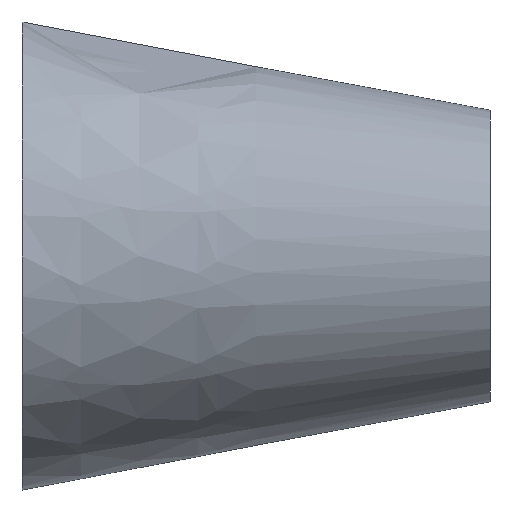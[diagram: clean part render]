
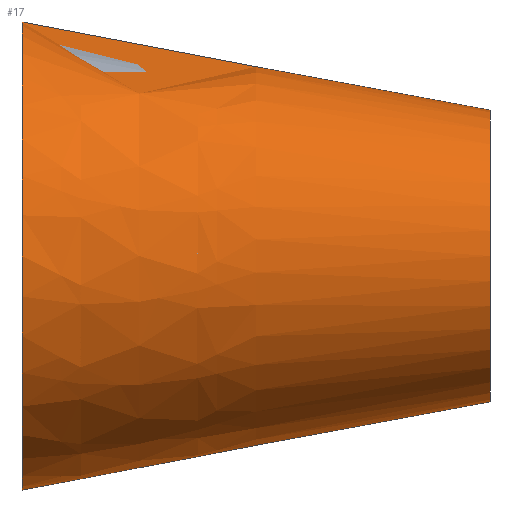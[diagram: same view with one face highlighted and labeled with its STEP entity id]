
A CAD part, front view. The second image highlights one B-rep face of the part: STEP entity #17.
In plain terms, the highlighted free-form (B-spline) face has degree [14, 1] with [28, 2] control points.
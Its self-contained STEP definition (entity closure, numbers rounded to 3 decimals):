
#17 = ADVANCED_FACE('',(#18),#31,.T.);
#18 = FACE_BOUND('',#19,.T.);
#19 = EDGE_LOOP('',(#20,#106,#128,#155));
#20 = ORIENTED_EDGE('',*,*,#21,.T.);
#21 = EDGE_CURVE('',#22,#22,#24,.T.);
#22 = VERTEX_POINT('',#23);
#23 = CARTESIAN_POINT('',(0.,42.5,0.));
#24 = SURFACE_CURVE('',#25,(#30,#94),.PCURVE_S1.);
#25 = CIRCLE('',#26,42.5);
#26 = AXIS2_PLACEMENT_3D('',#27,#28,#29);
#27 = CARTESIAN_POINT('',(0.,0.,0.));
#28 = DIRECTION('',(1.,0.,0.));
#29 = DIRECTION('',(0.,1.,0.));
#30 = PCURVE('',#31,#88);
#31 = B_SPLINE_SURFACE_WITH_KNOTS('',14,1,(
    (#32,#33)
    ,(#34,#35)
    ,(#36,#37)
    ,(#38,#39)
    ,(#40,#41)
    ,(#42,#43)
    ,(#44,#45)
    ,(#46,#47)
    ,(#48,#49)
    ,(#50,#51)
    ,(#52,#53)
    ,(#54,#55)
    ,(#56,#57)
    ,(#58,#59)
    ,(#60,#61)
    ,(#62,#63)
    ,(#64,#65)
    ,(#66,#67)
    ,(#68,#69)
    ,(#70,#71)
    ,(#72,#73)
    ,(#74,#75)
    ,(#76,#77)
    ,(#78,#79)
    ,(#80,#81)
    ,(#82,#83)
    ,(#84,#85)
    ,(#86,#87
    )),.UNSPECIFIED.,.T.,.F.,.F.,(15,13,15),(2,2),(0.,3.142,
    6.283),(0.,1.),.UNSPECIFIED.);
#32 = CARTESIAN_POINT('',(0.,42.5,0.));
#33 = CARTESIAN_POINT('',(85.,10.5,0.));
#34 = CARTESIAN_POINT('',(0.,42.5,9.537));
#35 = CARTESIAN_POINT('',(85.,10.5,5.947));
#36 = CARTESIAN_POINT('',(0.,40.195,19.074));
#37 = CARTESIAN_POINT('',(85.,9.063,11.893
    ));
#38 = CARTESIAN_POINT('',(0.,35.586,28.008));
#39 = CARTESIAN_POINT('',(85.,6.189,17.464
    ));
#40 = CARTESIAN_POINT('',(0.,28.844,35.734));
#41 = CARTESIAN_POINT('',(85.,1.985,22.281)
  );
#42 = CARTESIAN_POINT('',(0.,20.314,41.705));
#43 = CARTESIAN_POINT('',(85.,-3.333,26.004
    ));
#44 = CARTESIAN_POINT('',(0.,10.495,45.479));
#45 = CARTESIAN_POINT('',(85.,-9.456,28.358
    ));
#46 = CARTESIAN_POINT('',(0.,0.,46.77));
#47 = CARTESIAN_POINT('',(85.,-16.,
    29.163));
#48 = CARTESIAN_POINT('',(0.,-10.495,45.479));
#49 = CARTESIAN_POINT('',(85.,-22.544,28.358));
#50 = CARTESIAN_POINT('',(0.,-20.314,41.705));
#51 = CARTESIAN_POINT('',(85.,-28.667,26.004));
#52 = CARTESIAN_POINT('',(0.,-28.844,35.734));
#53 = CARTESIAN_POINT('',(85.,-33.985,22.281));
#54 = CARTESIAN_POINT('',(0.,-35.586,28.008));
#55 = CARTESIAN_POINT('',(85.,-38.189,17.464));
#56 = CARTESIAN_POINT('',(0.,-40.195,19.074));
#57 = CARTESIAN_POINT('',(85.,-41.063,11.893));
#58 = CARTESIAN_POINT('',(0.,-42.5,9.537));
#59 = CARTESIAN_POINT('',(85.,-42.5,5.947));
#60 = CARTESIAN_POINT('',(0.,-42.5,-9.537));
#61 = CARTESIAN_POINT('',(85.,-42.5,-5.947));
#62 = CARTESIAN_POINT('',(0.,-40.195,-19.074));
#63 = CARTESIAN_POINT('',(85.,-41.063,-11.893));
#64 = CARTESIAN_POINT('',(0.,-35.586,-28.008));
#65 = CARTESIAN_POINT('',(85.,-38.189,-17.464));
#66 = CARTESIAN_POINT('',(0.,-28.844,-35.734));
#67 = CARTESIAN_POINT('',(85.,-33.985,-22.281));
#68 = CARTESIAN_POINT('',(0.,-20.314,-41.705));
#69 = CARTESIAN_POINT('',(85.,-28.667,-26.004));
#70 = CARTESIAN_POINT('',(0.,-10.495,-45.479));
#71 = CARTESIAN_POINT('',(85.,-22.544,-28.358));
#72 = CARTESIAN_POINT('',(0.,0.,-46.77));
#73 = CARTESIAN_POINT('',(85.,-16.,-29.163));
#74 = CARTESIAN_POINT('',(0.,10.495,-45.479));
#75 = CARTESIAN_POINT('',(85.,-9.456,-28.358
    ));
#76 = CARTESIAN_POINT('',(0.,20.314,-41.705));
#77 = CARTESIAN_POINT('',(85.,-3.333,-26.004
    ));
#78 = CARTESIAN_POINT('',(0.,28.844,-35.734));
#79 = CARTESIAN_POINT('',(85.,1.985,-22.281)
  );
#80 = CARTESIAN_POINT('',(0.,35.586,-28.008));
#81 = CARTESIAN_POINT('',(85.,6.189,-17.464
    ));
#82 = CARTESIAN_POINT('',(0.,40.195,-19.074));
#83 = CARTESIAN_POINT('',(85.,9.063,-11.893
    ));
#84 = CARTESIAN_POINT('',(0.,42.5,-9.537));
#85 = CARTESIAN_POINT('',(85.,10.5,
    -5.947));
#86 = CARTESIAN_POINT('',(0.,42.5,0.));
#87 = CARTESIAN_POINT('',(85.,10.5,0.));
#88 = DEFINITIONAL_REPRESENTATION('',(#89),#93);
#89 = LINE('',#90,#91);
#90 = CARTESIAN_POINT('',(0.,0.));
#91 = VECTOR('',#92,1.);
#92 = DIRECTION('',(1.,0.));
#93 = ( GEOMETRIC_REPRESENTATION_CONTEXT(2) 
PARAMETRIC_REPRESENTATION_CONTEXT() REPRESENTATION_CONTEXT('2D SPACE',''
  ) );
#94 = PCURVE('',#95,#100);
#95 = PLANE('',#96);
#96 = AXIS2_PLACEMENT_3D('',#97,#98,#99);
#97 = CARTESIAN_POINT('',(0.,0.,0.));
#98 = DIRECTION('',(1.,0.,0.));
#99 = DIRECTION('',(0.,1.,0.));
#100 = DEFINITIONAL_REPRESENTATION('',(#101),#105);
#101 = CIRCLE('',#102,42.5);
#102 = AXIS2_PLACEMENT_2D('',#103,#104);
#103 = CARTESIAN_POINT('',(0.,0.));
#104 = DIRECTION('',(1.,0.));
#105 = ( GEOMETRIC_REPRESENTATION_CONTEXT(2) 
PARAMETRIC_REPRESENTATION_CONTEXT() REPRESENTATION_CONTEXT('2D SPACE',''
  ) );
#106 = ORIENTED_EDGE('',*,*,#107,.T.);
#107 = EDGE_CURVE('',#22,#108,#110,.T.);
#108 = VERTEX_POINT('',#109);
#109 = CARTESIAN_POINT('',(85.,10.5,0.));
#110 = SEAM_CURVE('',#111,(#114,#121),.PCURVE_S1.);
#111 = B_SPLINE_CURVE_WITH_KNOTS('',1,(#112,#113),.UNSPECIFIED.,.F.,.F.,
  (2,2),(0.,1.),.PIECEWISE_BEZIER_KNOTS.);
#112 = CARTESIAN_POINT('',(0.,42.5,0.));
#113 = CARTESIAN_POINT('',(85.,10.5,0.));
#114 = PCURVE('',#31,#115);
#115 = DEFINITIONAL_REPRESENTATION('',(#116),#120);
#116 = LINE('',#117,#118);
#117 = CARTESIAN_POINT('',(6.283,0.));
#118 = VECTOR('',#119,1.);
#119 = DIRECTION('',(0.,1.));
#120 = ( GEOMETRIC_REPRESENTATION_CONTEXT(2) 
PARAMETRIC_REPRESENTATION_CONTEXT() REPRESENTATION_CONTEXT('2D SPACE',''
  ) );
#121 = PCURVE('',#31,#122);
#122 = DEFINITIONAL_REPRESENTATION('',(#123),#127);
#123 = LINE('',#124,#125);
#124 = CARTESIAN_POINT('',(0.,0.));
#125 = VECTOR('',#126,1.);
#126 = DIRECTION('',(0.,1.));
#127 = ( GEOMETRIC_REPRESENTATION_CONTEXT(2) 
PARAMETRIC_REPRESENTATION_CONTEXT() REPRESENTATION_CONTEXT('2D SPACE',''
  ) );
#128 = ORIENTED_EDGE('',*,*,#129,.F.);
#129 = EDGE_CURVE('',#108,#108,#130,.T.);
#130 = SURFACE_CURVE('',#131,(#136,#143),.PCURVE_S1.);
#131 = CIRCLE('',#132,26.5);
#132 = AXIS2_PLACEMENT_3D('',#133,#134,#135);
#133 = CARTESIAN_POINT('',(85.,-16.,0.));
#134 = DIRECTION('',(1.,0.,0.));
#135 = DIRECTION('',(0.,1.,0.));
#136 = PCURVE('',#31,#137);
#137 = DEFINITIONAL_REPRESENTATION('',(#138),#142);
#138 = LINE('',#139,#140);
#139 = CARTESIAN_POINT('',(0.,1.));
#140 = VECTOR('',#141,1.);
#141 = DIRECTION('',(1.,0.));
#142 = ( GEOMETRIC_REPRESENTATION_CONTEXT(2) 
PARAMETRIC_REPRESENTATION_CONTEXT() REPRESENTATION_CONTEXT('2D SPACE',''
  ) );
#143 = PCURVE('',#144,#149);
#144 = PLANE('',#145);
#145 = AXIS2_PLACEMENT_3D('',#146,#147,#148);
#146 = CARTESIAN_POINT('',(85.,-16.,0.));
#147 = DIRECTION('',(1.,0.,0.));
#148 = DIRECTION('',(0.,1.,0.));
#149 = DEFINITIONAL_REPRESENTATION('',(#150),#154);
#150 = CIRCLE('',#151,26.5);
#151 = AXIS2_PLACEMENT_2D('',#152,#153);
#152 = CARTESIAN_POINT('',(0.,0.));
#153 = DIRECTION('',(1.,0.));
#154 = ( GEOMETRIC_REPRESENTATION_CONTEXT(2) 
PARAMETRIC_REPRESENTATION_CONTEXT() REPRESENTATION_CONTEXT('2D SPACE',''
  ) );
#155 = ORIENTED_EDGE('',*,*,#107,.F.);
